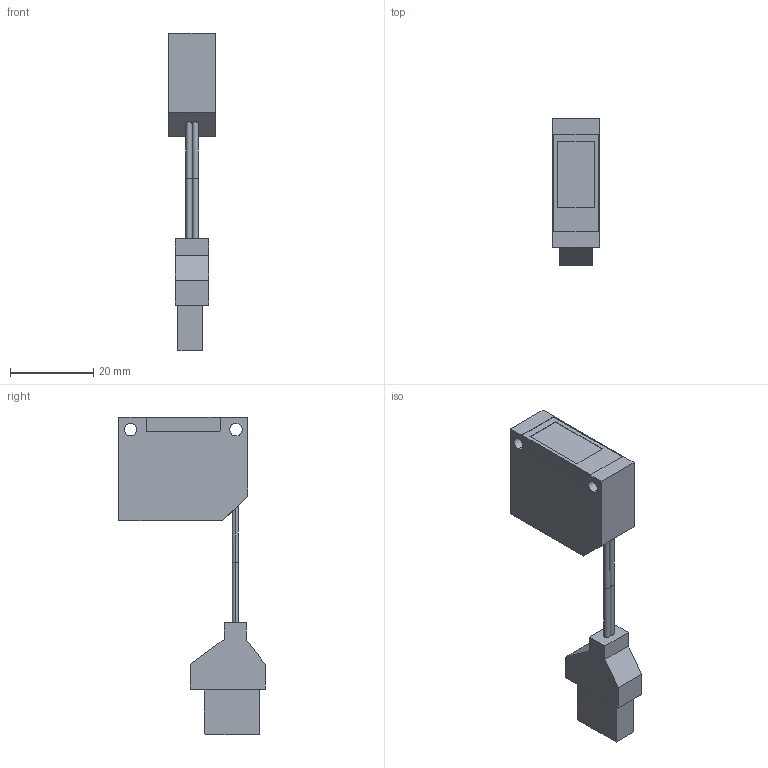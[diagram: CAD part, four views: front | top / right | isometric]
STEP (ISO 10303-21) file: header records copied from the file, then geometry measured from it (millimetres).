
FILE_DESCRIPTION (( 'STEP AP203' ), '1' );
FILE_NAME ('LS-H21.STEP', '2005-11-09T06:55:01', ( '' ), ( '' ), 'SwSTEP 2.0', 'SolidWorks 2004073', '' );
FILE_SCHEMA (( 'CONFIG_CONTROL_DESIGN' ));
Length unit declared in the file: millimetre
Products named in the file (1): LS-H21
Bounding box: 11.2 x 35.25 x 76.5 mm (x, y, z)
Volume: 9488.3 mm3; surface area: 6046 mm2
Topology: 3 solids, 3 shells, 121 faces, 315 edges, 210 vertices
Faces by surface type: plane 92, cylinder 29
Entity records: 3766 total; most frequent: CARTESIAN_POINT 665, ORIENTED_EDGE 630, DIRECTION 609, EDGE_CURVE 315, LINE 253, VECTOR 253, VERTEX_POINT 210, AXIS2_PLACEMENT_3D 178
